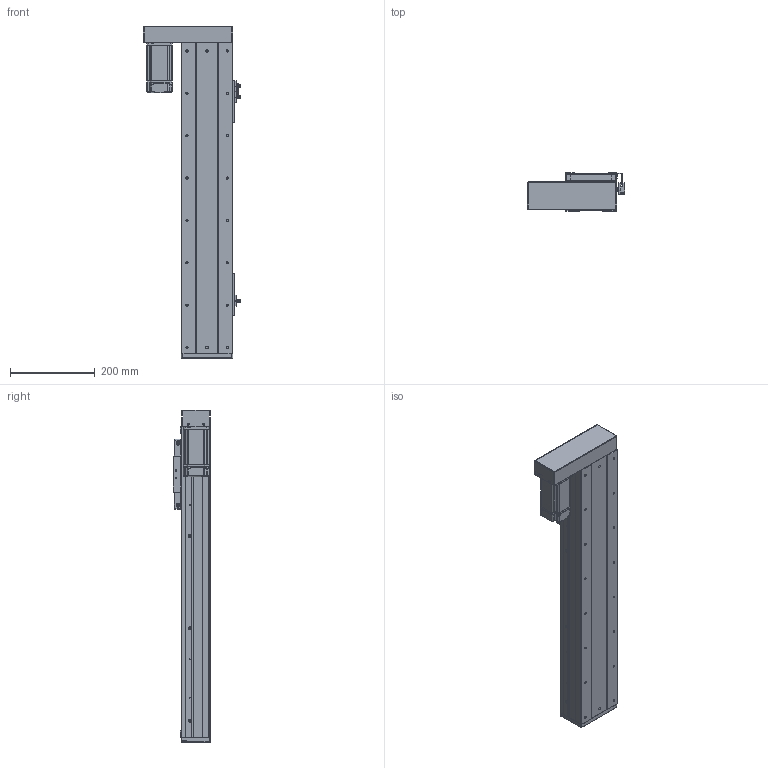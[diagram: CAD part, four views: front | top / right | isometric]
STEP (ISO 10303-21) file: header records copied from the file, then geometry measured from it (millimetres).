
FILE_DESCRIPTION (( 'STEP AP203' ), '1' );
FILE_NAME ('RY120F-L1620-300-LK.SLDASM_500.step', '2021-03-02T08:03:53', ( '盈信电脑' ), ( '东莞市道滘镇水果街19号' ), 'SwSTEP 2.0', 'SolidWorks 2012', '' );
FILE_SCHEMA (( 'CONFIG_CONTROL_DESIGN' ));
Length unit declared in the file: millimetre
Products named in the file (18): RY120F酘衵殏萇儂欶(200W); RY120F酘衵殏萇儂啣(200W PCD70 M4); 15; RY120F-L1620-300-LK.SLDASM_500; 672嫖萇羲壽假蚾釱; FY120F詩湍揤踡輸; RY80俋离覜茼え; RY120F綴裔啣(臏璃ㄘ; 滅袉蝶18-24; 覜茼ん672; RY120F-詩湍幗謫粣; RT120F-臏賑輸奻釱; RY120F转折电机端支撑座; RY120F祥凄詩滅鳥裔; RT120F-臏賑輸 16蹟譫; RT120F-300-倰第裔啣-LK_500; RY120F滅鳥詩湍-300-LK_500; RT120F-300-倰第菁釱-LK_500
Assembly tree (23 placements, depth 2):
  RY120F-L1620-300-LK.SLDASM_500
    RT120F-300-倰第菁釱-LK_500
    RT120F-300-倰第裔啣-LK_500  x2
    RY120F滅鳥詩湍-300-LK_500
    RT120F-臏賑輸 16蹟譫
    RT120F-臏賑輸奻釱
    RY120F转折电机端支撑座
    RY120F祥凄詩滅鳥裔
    滅袉蝶18-24  x2
    RY120F綴裔啣(臏璃ㄘ
    RY120F-詩湍幗謫粣
    覜茼ん672  x3
    672嫖萇羲壽假蚾釱  x2
    RY80俋离覜茼え
    FY120F詩湍揤踡輸  x2
    15
    RY120F酘衵殏萇儂啣(200W PCD70 M4)
    RY120F酘衵殏萇儂欶(200W)
Bounding box: 229.9 x 89 x 784 mm (x, y, z)
Volume: 2997371.2 mm3; surface area: 1083501.1 mm2
Topology: 23 solids, 23 shells, 2075 faces, 5565 edges, 3545 vertices
Faces by surface type: cylinder 924, plane 896, cone 229, bspline 26
Entity records: 58167 total; most frequent: CARTESIAN_POINT 10772, DIRECTION 9805, ORIENTED_EDGE 9170, EDGE_CURVE 4585, AXIS2_PLACEMENT_3D 3542, VERTEX_POINT 2989, VECTOR 2721, LINE 2721
